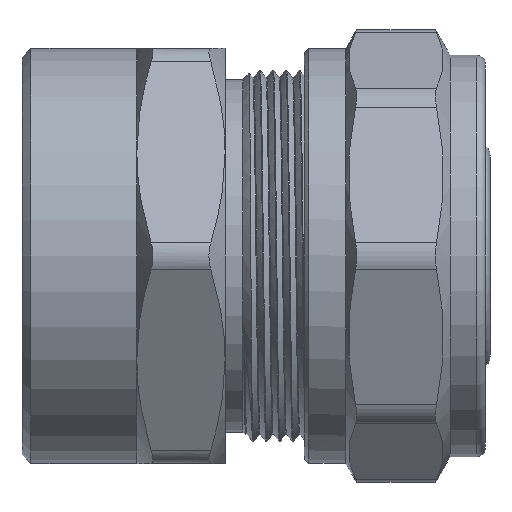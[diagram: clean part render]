
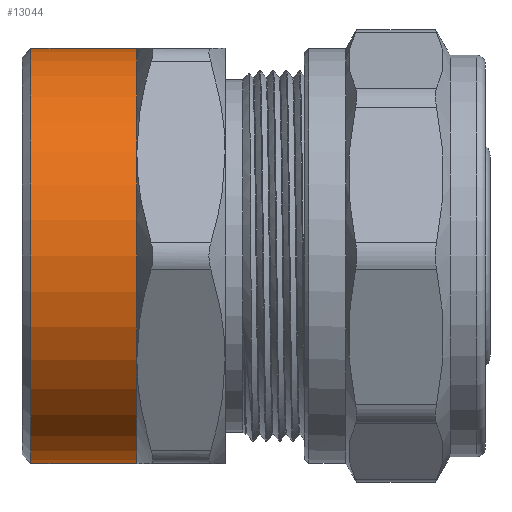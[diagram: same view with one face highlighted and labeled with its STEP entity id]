
A CAD part, front view. The second image highlights one B-rep face of the part: STEP entity #13044.
In plain terms, the highlighted cylindrical face has radius 23.5 mm (diameter 47 mm), a full revolution.
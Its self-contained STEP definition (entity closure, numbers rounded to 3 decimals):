
#815=CIRCLE('',#13499,23.5);
#816=CIRCLE('',#13501,23.5);
#817=CIRCLE('',#13503,23.5);
#818=CIRCLE('',#13504,23.5);
#819=CIRCLE('',#13506,23.5);
#820=CIRCLE('',#13508,23.5);
#821=CIRCLE('',#13510,23.5);
#822=CIRCLE('',#13511,23.5);
#823=CIRCLE('',#13512,23.5);
#1626=FACE_OUTER_BOUND('',#2374,.T.);
#2374=EDGE_LOOP('',(#11663,#11664,#11665,#11666,#11667,#11668,#11669,#11670,
#11671,#11672,#11673));
#4093=LINE('',#31586,#4891);
#4891=VECTOR('',#15246,23.5);
#6044=VERTEX_POINT('',#31309);
#6052=VERTEX_POINT('',#31357);
#6066=VERTEX_POINT('',#31438);
#6075=VERTEX_POINT('',#31490);
#6082=VERTEX_POINT('',#31537);
#6084=VERTEX_POINT('',#31552);
#6085=VERTEX_POINT('',#31574);
#6086=VERTEX_POINT('',#31582);
#6087=VERTEX_POINT('',#31583);
#8003=EDGE_CURVE('',#6084,#6066,#815,.T.);
#8004=EDGE_CURVE('',#6066,#6052,#816,.T.);
#8005=EDGE_CURVE('',#6085,#6084,#817,.T.);
#8006=EDGE_CURVE('',#6075,#6085,#818,.T.);
#8007=EDGE_CURVE('',#6052,#6044,#819,.T.);
#8008=EDGE_CURVE('',#6082,#6075,#820,.T.);
#8009=EDGE_CURVE('',#6086,#6087,#821,.T.);
#8010=EDGE_CURVE('',#6087,#6086,#822,.T.);
#8011=EDGE_CURVE('',#6087,#6085,#4093,.T.);
#8012=EDGE_CURVE('',#6044,#6082,#823,.T.);
#11663=ORIENTED_EDGE('',*,*,#8009,.F.);
#11664=ORIENTED_EDGE('',*,*,#8010,.F.);
#11665=ORIENTED_EDGE('',*,*,#8011,.T.);
#11666=ORIENTED_EDGE('',*,*,#8005,.T.);
#11667=ORIENTED_EDGE('',*,*,#8003,.T.);
#11668=ORIENTED_EDGE('',*,*,#8004,.T.);
#11669=ORIENTED_EDGE('',*,*,#8007,.T.);
#11670=ORIENTED_EDGE('',*,*,#8012,.T.);
#11671=ORIENTED_EDGE('',*,*,#8008,.T.);
#11672=ORIENTED_EDGE('',*,*,#8006,.T.);
#11673=ORIENTED_EDGE('',*,*,#8011,.F.);
#12403=CYLINDRICAL_SURFACE('',#13509,23.5);
#13044=ADVANCED_FACE('',(#1626),#12403,.T.);
#13499=AXIS2_PLACEMENT_3D('',#31570,#15220,#15221);
#13501=AXIS2_PLACEMENT_3D('',#31572,#15224,#15225);
#13503=AXIS2_PLACEMENT_3D('',#31575,#15228,#15229);
#13504=AXIS2_PLACEMENT_3D('',#31576,#15230,#15231);
#13506=AXIS2_PLACEMENT_3D('',#31578,#15234,#15235);
#13508=AXIS2_PLACEMENT_3D('',#31580,#15238,#15239);
#13509=AXIS2_PLACEMENT_3D('',#31581,#15240,#15241);
#13510=AXIS2_PLACEMENT_3D('',#31584,#15242,#15243);
#13511=AXIS2_PLACEMENT_3D('',#31585,#15244,#15245);
#13512=AXIS2_PLACEMENT_3D('',#31587,#15247,#15248);
#15220=DIRECTION('center_axis',(-1.,0.,0.));
#15221=DIRECTION('ref_axis',(0.,0.,1.));
#15224=DIRECTION('center_axis',(-1.,0.,0.));
#15225=DIRECTION('ref_axis',(0.,0.,1.));
#15228=DIRECTION('center_axis',(-1.,0.,0.));
#15229=DIRECTION('ref_axis',(0.,0.,1.));
#15230=DIRECTION('center_axis',(-1.,0.,0.));
#15231=DIRECTION('ref_axis',(0.,0.,1.));
#15234=DIRECTION('center_axis',(-1.,0.,0.));
#15235=DIRECTION('ref_axis',(0.,0.,1.));
#15238=DIRECTION('center_axis',(-1.,0.,0.));
#15239=DIRECTION('ref_axis',(0.,0.,1.));
#15240=DIRECTION('center_axis',(-1.,0.,0.));
#15241=DIRECTION('ref_axis',(0.,-1.,0.));
#15242=DIRECTION('center_axis',(-1.,0.,0.));
#15243=DIRECTION('ref_axis',(0.,0.,1.));
#15244=DIRECTION('center_axis',(-1.,0.,0.));
#15245=DIRECTION('ref_axis',(0.,0.,1.));
#15246=DIRECTION('',(1.,0.,0.));
#15247=DIRECTION('center_axis',(-1.,0.,0.));
#15248=DIRECTION('ref_axis',(0.,0.,1.));
#31309=CARTESIAN_POINT('',(-13.5,-20.352,11.75));
#31357=CARTESIAN_POINT('',(-13.5,-20.352,-11.75));
#31438=CARTESIAN_POINT('',(-13.5,0.,-23.5));
#31490=CARTESIAN_POINT('',(-13.5,20.352,11.75));
#31537=CARTESIAN_POINT('',(-13.5,0.,23.5));
#31552=CARTESIAN_POINT('',(-13.5,20.352,-11.75));
#31570=CARTESIAN_POINT('Origin',(-13.5,0.,0.));
#31572=CARTESIAN_POINT('Origin',(-13.5,0.,0.));
#31574=CARTESIAN_POINT('',(-13.5,23.5,0.));
#31575=CARTESIAN_POINT('Origin',(-13.5,0.,0.));
#31576=CARTESIAN_POINT('Origin',(-13.5,0.,0.));
#31578=CARTESIAN_POINT('Origin',(-13.5,0.,0.));
#31580=CARTESIAN_POINT('Origin',(-13.5,0.,0.));
#31581=CARTESIAN_POINT('Origin',(-19.5,0.,0.));
#31582=CARTESIAN_POINT('',(-25.5,-20.352,11.75));
#31583=CARTESIAN_POINT('',(-25.5,23.5,0.));
#31584=CARTESIAN_POINT('Origin',(-25.5,0.,0.));
#31585=CARTESIAN_POINT('Origin',(-25.5,0.,0.));
#31586=CARTESIAN_POINT('',(-19.5,23.5,0.));
#31587=CARTESIAN_POINT('Origin',(-13.5,0.,0.));
